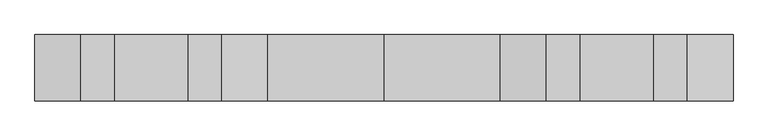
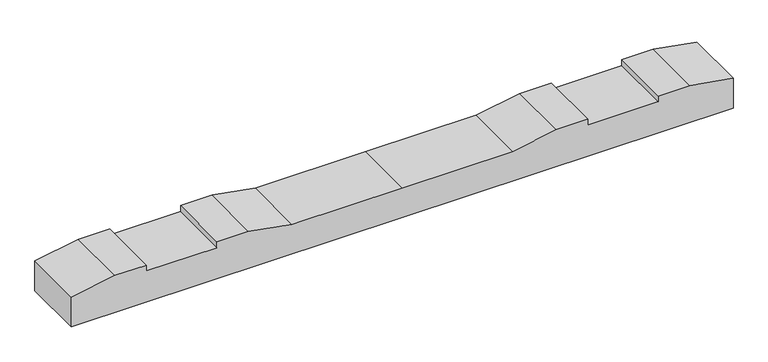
"""IFC4 building model written with IfcOpenShell, lengths in millimetres: proxy geometry, 轨枕-立面角度 : 轨枕-立面角度."""

from ifc_helpers import new_model, si_unit, frame, origin, place, context, project, spatial, polyline, outline, extrude, source, transform, mapped, element, save


def generic_models_1d3b1d61(model_context):
    return source(origin(), model_context, "Body", "SweptSolid", [
        extrude(outline(polyline([(0.0, 0.0), (2099.7669328, 0.0), (2099.7669328, -100.020689), (1961.8834664, -124.5), (1861.8834664, -124.5), (1861.8834664, -104.5), (1637.8834664, -104.5), (1637.8834664, -124.5), (1537.8834664, -124.5), (1399.8834664, -100.0), (1049.8834664, -100.0), (699.8834664, -100.0), (561.8834664, -124.5), (461.8834664, -124.5), (461.8834664, -104.5), (237.8834664, -104.5), (237.8834664, -124.5), (137.8834664, -124.5), (0.0, -100.020689), (0.0, 0.0)])), frame((-1049.8834664, -99.8124735, -104.6791294), z_axis=(0.0, 0.9999983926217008, 0.0017929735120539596), x_axis=(1.0, 0.0, 0.0)), (0.0, 0.0, 1.0), 200.0),
    ])


if __name__ == "__main__":
    model = new_model("IFC4")
    model_context = context("Model", 3, world=origin())
    ifc_project = project(units=[si_unit("LENGTHUNIT", "METRE", prefix="MILLI")], contexts=[model_context])
    site = spatial("IfcSite", under=ifc_project)
    building = spatial("IfcBuilding", under=site)
    placement = place(None, origin())
    generic_models_shape = generic_models_1d3b1d61(model_context)
    element("IfcBuildingElementProxy", 1, Name="轨枕-立面角度 : 轨枕-立面角度", ObjectType="轨枕-立面角度 : 轨枕-立面角度", at=placement, inside=building, context=model_context, shape_type="MappedRepresentation", body=[
        mapped(generic_models_shape, transform((0.0, 0.0, 0.0), x_axis=(1.0, 0.0, 0.0), y_axis=(0.0, 1.0, 0.0), z_axis=(0.0, 0.0, 1.0))),
    ])
    save(model, "model.ifc")
